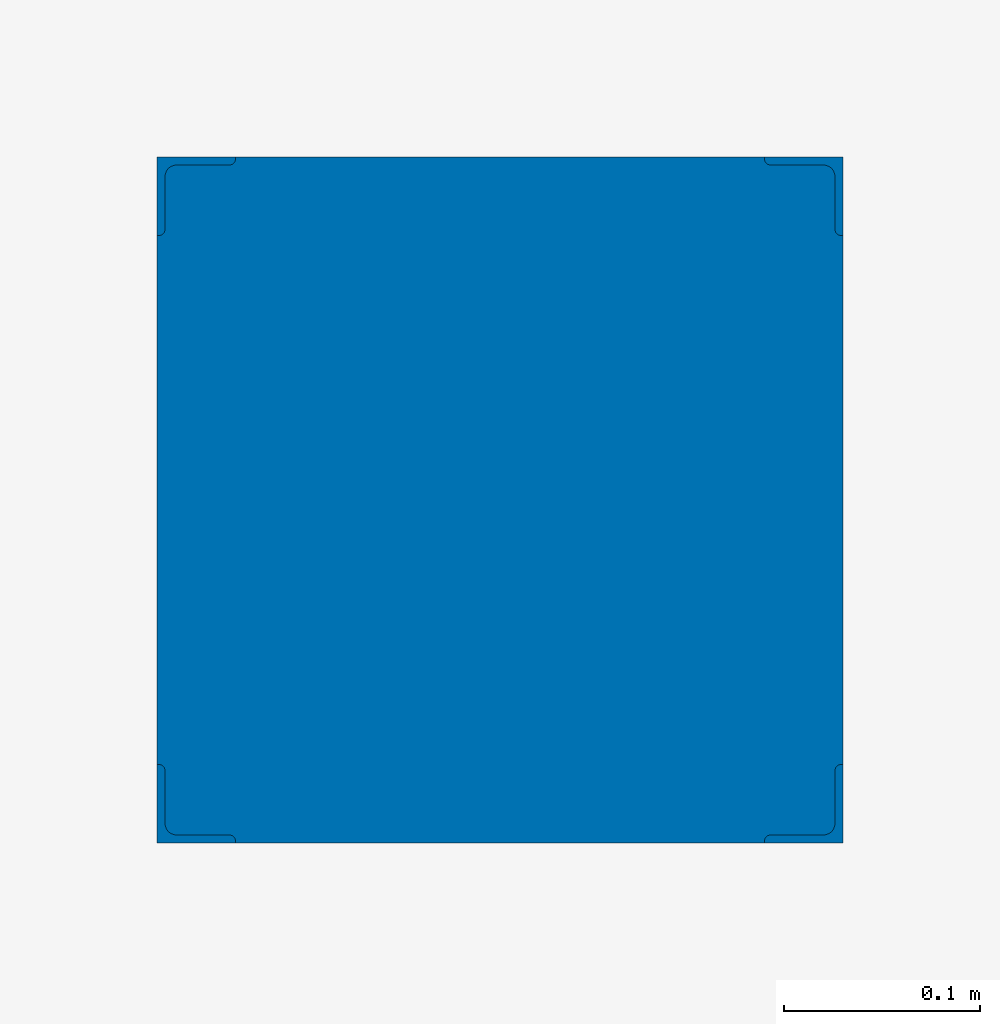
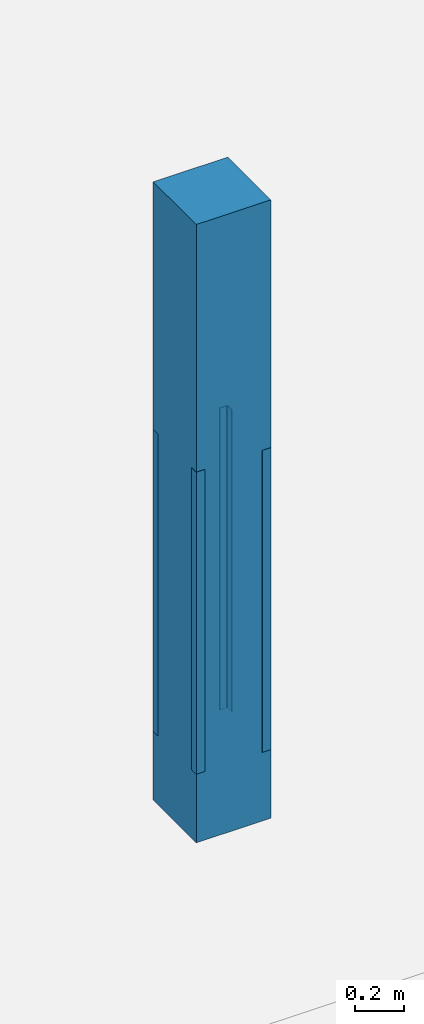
# One storey, part 11 of 42: 5 columns.
"""IFC2X3 building model written with IfcOpenShell, lengths in millimetres."""

from ifc_helpers import new_model, entity, si_unit, converted_unit, derived_unit, direction, frame, frame_2d, origin, origin_2d_with_axis, place, context, subcontext, project, spatial, polyline, circle_curve, parameter, trimmed, segment, composite_curve, rectangle, outline, extrude, source, transform, mapped, material, type_object, type_shapes, element, save


model = new_model("IFC2X3")

# Units and contexts
model_context = context("Model", 3, precision=0.01, world=origin(), true_north=direction((6.12303176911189e-17, 1.0)))
body_context = subcontext(model_context, "Body", "Model", "MODEL_VIEW")
ifc_project = project(units=[si_unit("LENGTHUNIT", "METRE", prefix="MILLI"), si_unit("AREAUNIT", "SQUARE_METRE", prefix="MILLI"), si_unit("VOLUMEUNIT", "CUBIC_METRE"), converted_unit("PLANEANGLEUNIT", "DEGREE", entity("IfcRatioMeasure", 0.0174532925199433), si_unit("PLANEANGLEUNIT", "RADIAN"), dimensions=[0, 0, 0, 0, 0, 0, 0]), si_unit("MASSUNIT", "GRAM", prefix="KILO"), derived_unit("MASSDENSITYUNIT", [(si_unit("MASSUNIT", "GRAM", prefix="KILO"), 1), (si_unit("LENGTHUNIT", "METRE"), -3)]), derived_unit("MOMENTOFINERTIAUNIT", [(si_unit("LENGTHUNIT", "METRE"), 4)]), si_unit("TIMEUNIT", "SECOND"), si_unit("FREQUENCYUNIT", "HERTZ"), si_unit("THERMODYNAMICTEMPERATUREUNIT", "DEGREE_CELSIUS"), derived_unit("THERMALTRANSMITTANCEUNIT", [(si_unit("MASSUNIT", "GRAM", prefix="KILO"), 1), (si_unit("THERMODYNAMICTEMPERATUREUNIT", "KELVIN"), -1), (si_unit("TIMEUNIT", "SECOND"), -3)]), derived_unit("VOLUMETRICFLOWRATEUNIT", [(si_unit("LENGTHUNIT", "METRE"), 3), (si_unit("TIMEUNIT", "SECOND"), -1)]), si_unit("ELECTRICCURRENTUNIT", "AMPERE"), si_unit("ELECTRICVOLTAGEUNIT", "VOLT"), si_unit("POWERUNIT", "WATT"), si_unit("FORCEUNIT", "NEWTON", prefix="KILO"), si_unit("ILLUMINANCEUNIT", "LUX"), si_unit("LUMINOUSFLUXUNIT", "LUMEN"), si_unit("LUMINOUSINTENSITYUNIT", "CANDELA"), derived_unit("USERDEFINED", [(si_unit("MASSUNIT", "GRAM", prefix="KILO"), -1), (si_unit("LENGTHUNIT", "METRE"), -2), (si_unit("TIMEUNIT", "SECOND"), 3), (si_unit("LUMINOUSFLUXUNIT", "LUMEN"), 1)]), derived_unit("LINEARVELOCITYUNIT", [(si_unit("LENGTHUNIT", "METRE"), 1), (si_unit("TIMEUNIT", "SECOND"), -1)]), si_unit("PRESSUREUNIT", "PASCAL"), derived_unit("USERDEFINED", [(si_unit("LENGTHUNIT", "METRE"), -2), (si_unit("MASSUNIT", "GRAM", prefix="KILO"), 1), (si_unit("TIMEUNIT", "SECOND"), -2)]), derived_unit("LINEARFORCEUNIT", [(si_unit("MASSUNIT", "GRAM", prefix="KILO"), 1), (si_unit("LENGTHUNIT", "METRE"), 1), (si_unit("TIMEUNIT", "SECOND"), -2), (si_unit("LENGTHUNIT", "METRE"), -1)]), derived_unit("PLANARFORCEUNIT", [(si_unit("MASSUNIT", "GRAM", prefix="KILO"), 1), (si_unit("LENGTHUNIT", "METRE"), 1), (si_unit("TIMEUNIT", "SECOND"), -2), (si_unit("LENGTHUNIT", "METRE"), -2)])], contexts=[model_context])

# Site, building, storey
site_placement = place(None, origin())
site = spatial("IfcSite", under=ifc_project, at=site_placement, Name="Theater aan de Parade", CompositionType="ELEMENT")
building_placement = place(site_placement, origin())
building = spatial("IfcBuilding", under=site, at=building_placement, Name="Theater aan de Parade", CompositionType="ELEMENT")
storey_placement = place(building_placement, frame((0.0, 0.0, -3300.0)))
storey = spatial("IfcBuildingStorey", under=building, at=storey_placement, Name="-1 kelder", CompositionType="ELEMENT", Elevation=-3300.0)

# Columns
ifc_material_1 = material(Name="00_PBT_MAT_beton t.p.g.")
column_type_1 = type_object("IfcColumnType", Name="28_PBT_SC_beton_rechthoekig:350x350_bestaand", PredefinedType="COLUMN", material=ifc_material_1)
shared_shape_1 = source(origin(), body_context, "Body", "SweptSolid", [
    extrude(rectangle(XDim=349.999999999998, YDim=349.99999999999, at=origin_2d_with_axis()), frame((78970.0, 24970.0, -2640.0), z_axis=(0.0, 0.0, 1.0), x_axis=(0.0, -1.0, 0.0)), (0.0, 0.0, 1.0), 3070.0000000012),
])
type_shapes(column_type_1, [shared_shape_1])
column_1_placement = place(storey_placement, frame((0.0, 0.0, 3300.0)))
element("IfcColumn", 1, at=column_1_placement, inside=storey, type_object=column_type_1, material=ifc_material_1, Name="28_PBT_SC_beton_rechthoekig:350x350_bestaand", ObjectType="28_PBT_SC_beton_rechthoekig:350x350_bestaand", context=body_context, shape_type="MappedRepresentation", body=[
    mapped(shared_shape_1, transform((0.0, 0.0, 0.0), scale=1.0)),
])
ifc_material_2 = material(Name="00_PBT_MAT_staal")
column_type_2 = type_object("IfcColumnType", Name="28_PBT_SC_staal_L-profiel:L40x40x4_bestaand", PredefinedType="COLUMN", material=ifc_material_2)
shared_shape_2 = source(origin(), body_context, "Body", "SweptSolid", [
    extrude(outline(composite_curve([segment(polyline([(-15.1111111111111, -15.1111111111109), (24.8888888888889, -15.1111111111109)]), True, "CONTINUOUS"), segment(polyline([(24.8888888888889, -15.1111111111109), (24.8888888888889, -14.1111111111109)]), True, "CONTINUOUS"), segment(trimmed(circle_curve(frame_2d((21.8888888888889, -14.1111111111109), x_axis=(1.0, 0.0)), 3.0), [parameter(0.0)], [parameter(90.0000000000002)], True, "PARAMETER"), True, "CONTINUOUS"), segment(polyline([(21.8888888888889, -11.1111111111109), (-5.11111111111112, -11.1111111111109)]), True, "CONTINUOUS"), segment(trimmed(circle_curve(frame_2d((-5.11111111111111, -5.11111111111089), x_axis=(0.0, -1.0)), 6.0), [parameter(270.0)], [parameter(0.0)], True, "PARAMETER"), False, "CONTINUOUS"), segment(polyline([(-11.1111111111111, -5.11111111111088), (-11.1111111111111, 21.8888888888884)]), True, "CONTINUOUS"), segment(trimmed(circle_curve(frame_2d((-14.1111111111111, 21.8888888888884), x_axis=(1.0, 0.0)), 3.0), [parameter(0.0)], [parameter(90.0000000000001)], True, "PARAMETER"), True, "CONTINUOUS"), segment(polyline([(-14.1111111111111, 24.8888888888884), (-15.1111111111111, 24.8888888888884)]), True, "CONTINUOUS"), segment(polyline([(-15.1111111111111, 24.8888888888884), (-15.1111111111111, -15.1111111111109)]), True, "CONTINUOUS")], self_intersect=False)), frame((3.91111111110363, -3.9111111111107, -2300.0), z_axis=(0.0, 0.0, 1.0), x_axis=(0.0, -1.0, 0.0)), (0.0, 0.0, 1.0), 1500.0),
])
type_shapes(column_type_2, [shared_shape_2])
column_2_placement = place(storey_placement, frame((78806.2000000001, 25133.7999999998, 3300.0)))
element("IfcColumn", 2, at=column_2_placement, inside=storey, type_object=column_type_2, material=ifc_material_2, Name="28_PBT_SC_staal_L-profiel:L40x40x4_bestaand", ObjectType="28_PBT_SC_staal_L-profiel:L40x40x4_bestaand", context=body_context, shape_type="MappedRepresentation", body=[
    mapped(shared_shape_2, transform((0.0, 0.0, 0.0), scale=1.0)),
])
column_3_placement = place(storey_placement, frame((79133.7999999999, 24806.1999999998, 3300.0), z_axis=(0.0, 0.0, 1.0), x_axis=(-1.0, 0.0, 0.0)))
element("IfcColumn", 3, at=column_3_placement, inside=storey, type_object=column_type_2, material=ifc_material_2, Name="28_PBT_SC_staal_L-profiel:L40x40x4_bestaand", ObjectType="28_PBT_SC_staal_L-profiel:L40x40x4_bestaand", context=body_context, shape_type="MappedRepresentation", body=[
    mapped(shared_shape_2, transform((0.0, 0.0, 0.0), scale=1.0)),
])
column_type_3 = type_object("IfcColumnType", Name="28_PBT_SC_staal_L-profiel:L40x40x4_bestaand", PredefinedType="COLUMN", material=ifc_material_2)
shared_shape_3 = source(origin(), body_context, "Body", "SweptSolid", [
    extrude(outline(composite_curve([segment(polyline([(-24.8888888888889, -15.1111111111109), (15.1111111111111, -15.1111111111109)]), True, "CONTINUOUS"), segment(polyline([(15.1111111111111, -15.1111111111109), (15.1111111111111, 24.8888888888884)]), True, "CONTINUOUS"), segment(polyline([(15.1111111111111, 24.8888888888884), (14.1111111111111, 24.8888888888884)]), True, "CONTINUOUS"), segment(trimmed(circle_curve(frame_2d((14.1111111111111, 21.8888888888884), x_axis=(0.0, 1.0)), 3.0), [parameter(0.0)], [parameter(89.9999999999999)], True, "PARAMETER"), True, "CONTINUOUS"), segment(polyline([(11.1111111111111, 21.8888888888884), (11.1111111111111, -5.11111111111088)]), True, "CONTINUOUS"), segment(trimmed(circle_curve(frame_2d((5.1111111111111, -5.1111111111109), x_axis=(1.0, 0.0)), 6.0), [parameter(270.0)], [parameter(0.0)], True, "PARAMETER"), False, "CONTINUOUS"), segment(polyline([(5.11111111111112, -11.1111111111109), (-21.8888888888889, -11.1111111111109)]), True, "CONTINUOUS"), segment(trimmed(circle_curve(frame_2d((-21.8888888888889, -14.1111111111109), x_axis=(0.0, 1.0)), 3.0), [parameter(0.0)], [parameter(90.0000000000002)], True, "PARAMETER"), True, "CONTINUOUS"), segment(polyline([(-24.8888888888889, -14.1111111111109), (-24.8888888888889, -15.1111111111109)]), True, "CONTINUOUS")], self_intersect=False)), frame((3.91111111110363, 3.91111111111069, -2300.0), z_axis=(0.0, 0.0, 1.0), x_axis=(0.0, -1.0, 0.0)), (0.0, 0.0, 1.0), 1500.0),
])
type_shapes(column_type_3, [shared_shape_3])
column_4_placement = place(storey_placement, frame((79133.7999999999, 25133.7999999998, 3300.0), z_axis=(0.0, 0.0, 1.0), x_axis=(-1.0, 0.0, 0.0)))
element("IfcColumn", 4, at=column_4_placement, inside=storey, type_object=column_type_3, material=ifc_material_2, Name="28_PBT_SC_staal_L-profiel:L40x40x4_bestaand", ObjectType="28_PBT_SC_staal_L-profiel:L40x40x4_bestaand", context=body_context, shape_type="MappedRepresentation", body=[
    mapped(shared_shape_3, transform((0.0, 0.0, 0.0), scale=1.0)),
])
column_5_placement = place(storey_placement, frame((78806.2000000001, 24806.1999999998, 3300.0)))
element("IfcColumn", 5, at=column_5_placement, inside=storey, type_object=column_type_3, material=ifc_material_2, Name="28_PBT_SC_staal_L-profiel:L40x40x4_bestaand", ObjectType="28_PBT_SC_staal_L-profiel:L40x40x4_bestaand", context=body_context, shape_type="MappedRepresentation", body=[
    mapped(shared_shape_3, transform((0.0, 0.0, 0.0), scale=1.0)),
])

save(model, "model.ifc")
